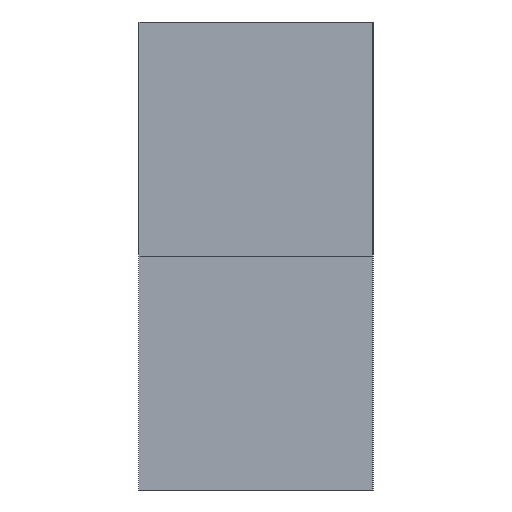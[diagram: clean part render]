
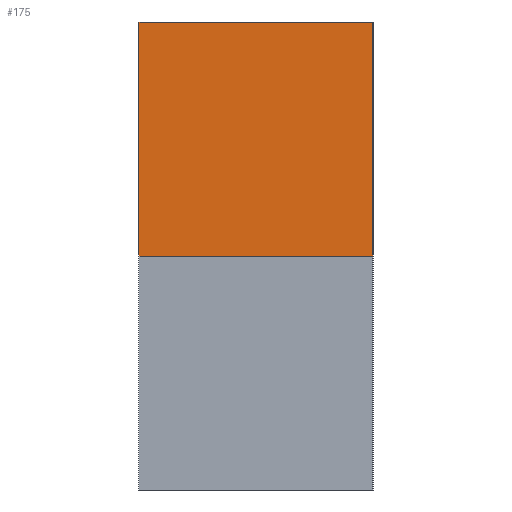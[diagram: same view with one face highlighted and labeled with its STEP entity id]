
A CAD part, left-side view. The second image highlights one B-rep face of the part: STEP entity #175.
In plain terms, the highlighted planar face has unit normal (-1, 0, 0).
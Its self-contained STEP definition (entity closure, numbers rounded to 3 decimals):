
#43 = EDGE_CURVE('',#44,#46,#48,.T.);
#44 = VERTEX_POINT('',#45);
#45 = CARTESIAN_POINT('',(-117.,-10.,-10.));
#46 = VERTEX_POINT('',#47);
#47 = CARTESIAN_POINT('',(-117.,10.,-10.));
#48 = LINE('',#49,#50);
#49 = CARTESIAN_POINT('',(-117.,10.,-10.));
#50 = VECTOR('',#51,1.);
#51 = DIRECTION('',(-0.,1.,0.));
#83 = EDGE_CURVE('',#46,#84,#86,.T.);
#84 = VERTEX_POINT('',#85);
#85 = CARTESIAN_POINT('',(-117.,10.,10.));
#86 = LINE('',#87,#88);
#87 = CARTESIAN_POINT('',(-117.,10.,10.));
#88 = VECTOR('',#89,1.);
#89 = DIRECTION('',(-0.,-0.,1.));
#114 = EDGE_CURVE('',#84,#115,#117,.T.);
#115 = VERTEX_POINT('',#116);
#116 = CARTESIAN_POINT('',(-117.,-10.,10.));
#117 = LINE('',#118,#119);
#118 = CARTESIAN_POINT('',(-117.,10.,10.));
#119 = VECTOR('',#120,1.);
#120 = DIRECTION('',(0.,-1.,0.));
#145 = EDGE_CURVE('',#115,#44,#146,.T.);
#146 = LINE('',#147,#148);
#147 = CARTESIAN_POINT('',(-117.,-10.,10.));
#148 = VECTOR('',#149,1.);
#149 = DIRECTION('',(0.,0.,-1.));
#175 = ADVANCED_FACE('',(#176),#182,.F.);
#176 = FACE_BOUND('',#177,.T.);
#177 = EDGE_LOOP('',(#178,#179,#180,#181));
#178 = ORIENTED_EDGE('',*,*,#43,.F.);
#179 = ORIENTED_EDGE('',*,*,#145,.F.);
#180 = ORIENTED_EDGE('',*,*,#114,.F.);
#181 = ORIENTED_EDGE('',*,*,#83,.F.);
#182 = PLANE('',#183);
#183 = AXIS2_PLACEMENT_3D('',#184,#185,#186);
#184 = CARTESIAN_POINT('',(-117.,0.,0.));
#185 = DIRECTION('',(1.,0.,0.));
#186 = DIRECTION('',(0.,0.,-1.));
